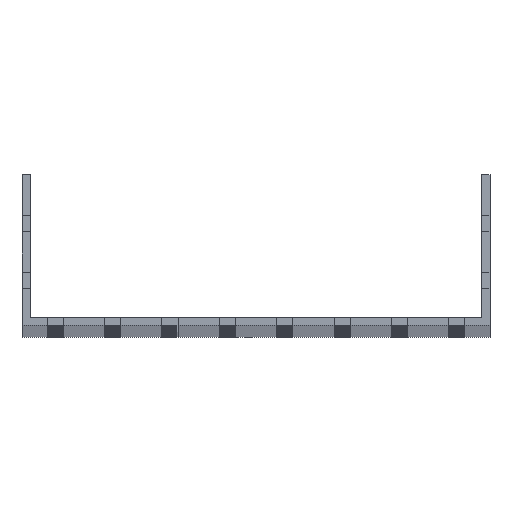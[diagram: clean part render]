
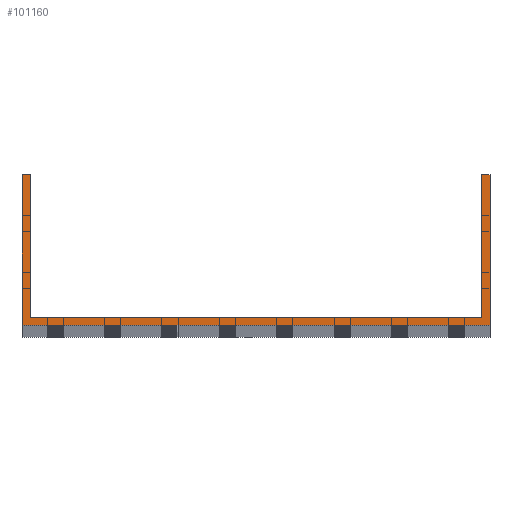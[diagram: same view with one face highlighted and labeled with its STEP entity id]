
A CAD part, top view. The second image highlights one B-rep face of the part: STEP entity #101160.
In plain terms, the highlighted planar face has unit normal (0, 0, 1).
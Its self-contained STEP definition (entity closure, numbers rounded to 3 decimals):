
#82 = DIRECTION ( 'NONE',  ( 0., 1., 0. ) ) ;
#3557 = CARTESIAN_POINT ( 'NONE',  ( -102., 0., 1500. ) ) ;
#6024 = EDGE_CURVE ( 'NONE', #112105, #112693, #89628, .T. ) ;
#6056 = ORIENTED_EDGE ( 'NONE', *, *, #71834, .T. ) ;
#7465 = VERTEX_POINT ( 'NONE', #91857 ) ;
#8087 = CARTESIAN_POINT ( 'NONE',  ( -102., 65.5, 1500. ) ) ;
#11737 = DIRECTION ( 'NONE',  ( -1., 0., 0. ) ) ;
#12729 = EDGE_CURVE ( 'NONE', #115992, #112693, #89950, .T. ) ;
#13071 = DIRECTION ( 'NONE',  ( 1., 0., 0. ) ) ;
#15090 = ORIENTED_EDGE ( 'NONE', *, *, #101744, .T. ) ;
#16271 = DIRECTION ( 'NONE',  ( 1., 0., 0. ) ) ;
#20931 = EDGE_CURVE ( 'NONE', #72499, #42320, #104804, .T. ) ;
#21639 = CARTESIAN_POINT ( 'NONE',  ( 98.5, 65.5, 1500. ) ) ;
#22831 = VERTEX_POINT ( 'NONE', #101611 ) ;
#25344 = EDGE_CURVE ( 'NONE', #46964, #112105, #26460, .T. ) ;
#26460 = LINE ( 'NONE', #97880, #47405 ) ;
#28161 = FACE_OUTER_BOUND ( 'NONE', #105493, .T. ) ;
#35811 = CARTESIAN_POINT ( 'NONE',  ( 98.5, 65.5, 1500. ) ) ;
#38881 = ORIENTED_EDGE ( 'NONE', *, *, #12729, .F. ) ;
#40450 = ORIENTED_EDGE ( 'NONE', *, *, #113991, .F. ) ;
#42320 = VERTEX_POINT ( 'NONE', #62666 ) ;
#42986 = ORIENTED_EDGE ( 'NONE', *, *, #20931, .F. ) ;
#44505 = EDGE_CURVE ( 'NONE', #72499, #22831, #47470, .T. ) ;
#45050 = CARTESIAN_POINT ( 'NONE',  ( 102., 65.5, 1500. ) ) ;
#46603 = DIRECTION ( 'NONE',  ( 0., 0., 1. ) ) ;
#46964 = VERTEX_POINT ( 'NONE', #96029 ) ;
#47405 = VECTOR ( 'NONE', #81202, 1000. ) ;
#47470 = LINE ( 'NONE', #83768, #63062 ) ;
#48351 = PLANE ( 'NONE',  #105383 ) ;
#49326 = ORIENTED_EDGE ( 'NONE', *, *, #6024, .T. ) ;
#50312 = VECTOR ( 'NONE', #13071, 1000. ) ;
#55582 = DIRECTION ( 'NONE',  ( 0., -1., 0. ) ) ;
#62666 = CARTESIAN_POINT ( 'NONE',  ( -98.5, 3.5, 1500. ) ) ;
#63062 = VECTOR ( 'NONE', #11737, 1000. ) ;
#63261 = CARTESIAN_POINT ( 'NONE',  ( -102., 3.5, 1500. ) ) ;
#64516 = CARTESIAN_POINT ( 'NONE',  ( -102., 65.5, 1500. ) ) ;
#71834 = EDGE_CURVE ( 'NONE', #22831, #7465, #92475, .T. ) ;
#72322 = ORIENTED_EDGE ( 'NONE', *, *, #44505, .T. ) ;
#72499 = VERTEX_POINT ( 'NONE', #114983 ) ;
#76920 = VECTOR ( 'NONE', #16271, 1000. ) ;
#77427 = VECTOR ( 'NONE', #86362, 1000. ) ;
#80522 = VECTOR ( 'NONE', #80704, 1000. ) ;
#80704 = DIRECTION ( 'NONE',  ( -1., 0., 0. ) ) ;
#81123 = LINE ( 'NONE', #63261, #76920 ) ;
#81202 = DIRECTION ( 'NONE',  ( 0., 1., 0. ) ) ;
#82905 = DIRECTION ( 'NONE',  ( 1., 0., 0. ) ) ;
#83768 = CARTESIAN_POINT ( 'NONE',  ( -102., 65.5, 1500. ) ) ;
#85094 = LINE ( 'NONE', #3557, #50312 ) ;
#86362 = DIRECTION ( 'NONE',  ( 0., -1., 0. ) ) ;
#89628 = LINE ( 'NONE', #8087, #80522 ) ;
#89950 = LINE ( 'NONE', #35811, #97016 ) ;
#91857 = CARTESIAN_POINT ( 'NONE',  ( -102., 0., 1500. ) ) ;
#92475 = LINE ( 'NONE', #64516, #111843 ) ;
#96029 = CARTESIAN_POINT ( 'NONE',  ( 102., 0., 1500. ) ) ;
#97016 = VECTOR ( 'NONE', #82, 1000. ) ;
#97880 = CARTESIAN_POINT ( 'NONE',  ( 102., 65.5, 1500. ) ) ;
#100758 = CARTESIAN_POINT ( 'NONE',  ( 0., 0., 1500. ) ) ;
#101160 = ADVANCED_FACE ( 'NONE', ( #28161 ), #48351, .T. ) ;
#101611 = CARTESIAN_POINT ( 'NONE',  ( -102., 65.5, 1500. ) ) ;
#101744 = EDGE_CURVE ( 'NONE', #7465, #46964, #85094, .T. ) ;
#103629 = CARTESIAN_POINT ( 'NONE',  ( -98.5, 65.5, 1500. ) ) ;
#104804 = LINE ( 'NONE', #103629, #77427 ) ;
#105383 = AXIS2_PLACEMENT_3D ( 'NONE', #100758, #46603, #82905 ) ;
#105475 = ORIENTED_EDGE ( 'NONE', *, *, #25344, .T. ) ;
#105493 = EDGE_LOOP ( 'NONE', ( #42986, #72322, #6056, #15090, #105475, #49326, #38881, #40450 ) ) ;
#107629 = CARTESIAN_POINT ( 'NONE',  ( 98.5, 3.5, 1500. ) ) ;
#111843 = VECTOR ( 'NONE', #55582, 1000. ) ;
#112105 = VERTEX_POINT ( 'NONE', #45050 ) ;
#112693 = VERTEX_POINT ( 'NONE', #21639 ) ;
#113991 = EDGE_CURVE ( 'NONE', #42320, #115992, #81123, .T. ) ;
#114983 = CARTESIAN_POINT ( 'NONE',  ( -98.5, 65.5, 1500. ) ) ;
#115992 = VERTEX_POINT ( 'NONE', #107629 ) ;
